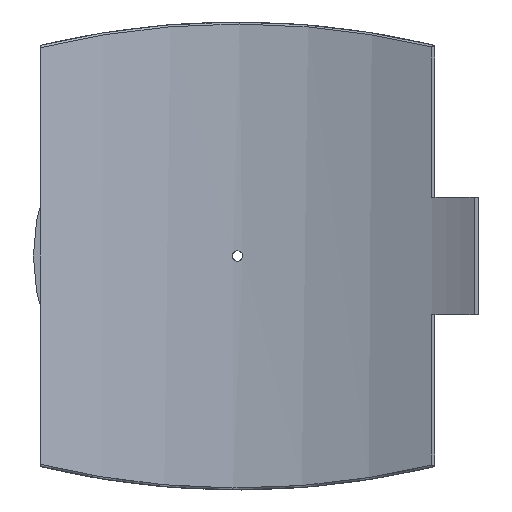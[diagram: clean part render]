
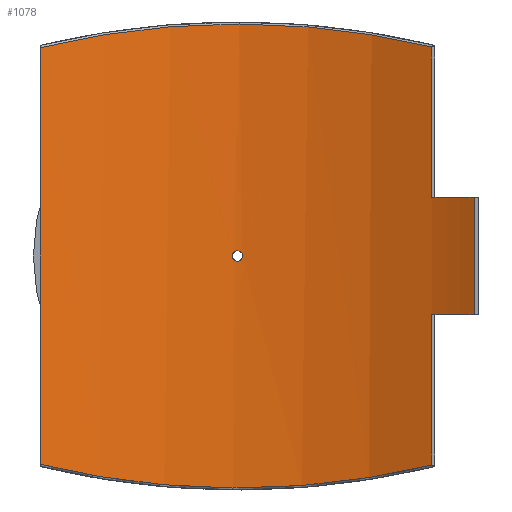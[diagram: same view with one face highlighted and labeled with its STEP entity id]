
A CAD part, front view. The second image highlights one B-rep face of the part: STEP entity #1078.
In plain terms, the highlighted cylindrical face has radius 450 mm (diameter 900 mm), a partial arc.
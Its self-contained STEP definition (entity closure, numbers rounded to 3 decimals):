
#55=FACE_BOUND('',#355,.T.);
#109=B_SPLINE_CURVE_WITH_KNOTS('',3,(#2213,#2214,#2215,#2216,#2217,#2218,
#2219,#2220,#2221,#2222),.UNSPECIFIED.,.F.,.F.,(4,1,1,1,1,1,1,4),(-46.516,
-40.629,-34.742,-28.854,-22.967,
-17.08,-11.192,-5.305),.UNSPECIFIED.);
#110=B_SPLINE_CURVE_WITH_KNOTS('',3,(#2231,#2232,#2233,#2234,#2235,#2236,
#2237,#2238,#2239,#2240),.UNSPECIFIED.,.F.,.F.,(4,1,1,1,1,1,1,4),(-42.546,
-36.659,-30.771,-24.884,-18.997,-13.109,
-7.222,-1.335),.UNSPECIFIED.);
#111=B_SPLINE_CURVE_WITH_KNOTS('',3,(#2243,#2244,#2245,#2246,#2247,#2248,
#2249,#2250,#2251,#2252),.UNSPECIFIED.,.F.,.F.,(4,2,2,2,4),(0.,0.196,
0.392,0.588,0.784),.UNSPECIFIED.);
#112=B_SPLINE_CURVE_WITH_KNOTS('',3,(#2253,#2254,#2255,#2256,#2257,#2258,
#2259,#2260,#2261,#2262,#2263,#2264,#2265,#2266,#2267,#2268,#2269,#2270,
#2271,#2272,#2273,#2274,#2275,#2276,#2277,#2278),.UNSPECIFIED.,.F.,.F.,
(4,2,2,2,2,2,2,2,2,2,2,2,4),(0.784,0.979,1.175,
1.371,1.567,1.763,1.959,2.155,
2.351,2.546,2.742,2.938,3.134),
 .UNSPECIFIED.);
#133=LINE('',#1615,#184);
#144=LINE('',#1902,#195);
#151=LINE('',#2227,#202);
#152=LINE('',#2230,#203);
#184=VECTOR('',#1292,10.);
#195=VECTOR('',#1331,10.);
#202=VECTOR('',#1368,10.);
#203=VECTOR('',#1371,10.);
#244=CYLINDRICAL_SURFACE('',#1175,450.);
#288=FACE_OUTER_BOUND('',#354,.T.);
#354=EDGE_LOOP('',(#839,#840,#841,#842,#843,#844,#845,#846));
#355=EDGE_LOOP('',(#847,#848));
#449=CIRCLE('',#1176,450.);
#450=CIRCLE('',#1177,450.);
#510=VERTEX_POINT('',#1606);
#513=VERTEX_POINT('',#1613);
#533=VERTEX_POINT('',#1895);
#536=VERTEX_POINT('',#1900);
#549=VERTEX_POINT('',#2199);
#550=VERTEX_POINT('',#2224);
#551=VERTEX_POINT('',#2226);
#552=VERTEX_POINT('',#2229);
#553=VERTEX_POINT('',#2241);
#554=VERTEX_POINT('',#2242);
#613=EDGE_CURVE('',#513,#510,#133,.T.);
#643=EDGE_CURVE('',#536,#533,#144,.T.);
#666=EDGE_CURVE('',#549,#536,#109,.T.);
#667=EDGE_CURVE('',#550,#513,#449,.T.);
#668=EDGE_CURVE('',#550,#551,#151,.T.);
#669=EDGE_CURVE('',#533,#551,#450,.T.);
#670=EDGE_CURVE('',#552,#549,#152,.T.);
#671=EDGE_CURVE('',#510,#552,#110,.T.);
#672=EDGE_CURVE('',#553,#554,#111,.T.);
#673=EDGE_CURVE('',#554,#553,#112,.T.);
#839=ORIENTED_EDGE('',*,*,#667,.F.);
#840=ORIENTED_EDGE('',*,*,#668,.T.);
#841=ORIENTED_EDGE('',*,*,#669,.F.);
#842=ORIENTED_EDGE('',*,*,#643,.F.);
#843=ORIENTED_EDGE('',*,*,#666,.F.);
#844=ORIENTED_EDGE('',*,*,#670,.F.);
#845=ORIENTED_EDGE('',*,*,#671,.F.);
#846=ORIENTED_EDGE('',*,*,#613,.F.);
#847=ORIENTED_EDGE('',*,*,#672,.T.);
#848=ORIENTED_EDGE('',*,*,#673,.T.);
#1078=ADVANCED_FACE('',(#288,#55),#244,.F.);
#1175=AXIS2_PLACEMENT_3D('',#2223,#1364,#1365);
#1176=AXIS2_PLACEMENT_3D('',#2225,#1366,#1367);
#1177=AXIS2_PLACEMENT_3D('',#2228,#1369,#1370);
#1292=DIRECTION('',(0.,0.,-1.));
#1331=DIRECTION('',(0.,0.,-1.));
#1364=DIRECTION('center_axis',(0.,0.,1.));
#1365=DIRECTION('ref_axis',(-1.,0.,0.));
#1366=DIRECTION('center_axis',(0.,0.,1.));
#1367=DIRECTION('ref_axis',(-0.528,-0.849,0.));
#1368=DIRECTION('',(0.,0.,1.));
#1369=DIRECTION('center_axis',(0.,0.,-1.));
#1370=DIRECTION('ref_axis',(-0.528,-0.849,0.));
#1371=DIRECTION('',(0.,0.,1.));
#1606=CARTESIAN_POINT('',(195.133,405.491,-209.923));
#1613=CARTESIAN_POINT('',(195.133,405.491,-58.75));
#1615=CARTESIAN_POINT('',(195.133,405.491,0.));
#1895=CARTESIAN_POINT('',(195.133,405.491,58.75));
#1900=CARTESIAN_POINT('',(195.133,405.491,209.923));
#1902=CARTESIAN_POINT('',(195.133,405.491,0.));
#2199=CARTESIAN_POINT('',(-198.,404.099,209.23));
#2213=CARTESIAN_POINT('Ctrl Pts',(-198.,404.099,209.23));
#2214=CARTESIAN_POINT('Ctrl Pts',(-180.859,412.498,213.405));
#2215=CARTESIAN_POINT('Ctrl Pts',(-145.329,427.197,220.906));
#2216=CARTESIAN_POINT('Ctrl Pts',(-89.127,442.374,228.904));
#2217=CARTESIAN_POINT('Ctrl Pts',(-31.017,450.208,233.111));
#2218=CARTESIAN_POINT('Ctrl Pts',(27.751,450.421,233.227));
#2219=CARTESIAN_POINT('Ctrl Pts',(85.928,443.007,229.242));
#2220=CARTESIAN_POINT('Ctrl Pts',(142.27,428.227,221.443));
#2221=CARTESIAN_POINT('Ctrl Pts',(177.921,413.774,214.051));
#2222=CARTESIAN_POINT('Ctrl Pts',(195.133,405.491,209.923));
#2223=CARTESIAN_POINT('Origin',(0.,0.,0.));
#2224=CARTESIAN_POINT('',(237.752,382.065,-58.75));
#2225=CARTESIAN_POINT('Origin',(0.,0.,
-58.75));
#2226=CARTESIAN_POINT('',(237.752,382.065,58.75));
#2227=CARTESIAN_POINT('',(237.752,382.065,0.));
#2228=CARTESIAN_POINT('Origin',(0.,0.,
58.75));
#2229=CARTESIAN_POINT('',(-198.,404.099,-209.23));
#2230=CARTESIAN_POINT('',(-198.,404.099,0.));
#2231=CARTESIAN_POINT('Ctrl Pts',(195.133,405.491,-209.923));
#2232=CARTESIAN_POINT('Ctrl Pts',(177.921,413.774,-214.051));
#2233=CARTESIAN_POINT('Ctrl Pts',(142.27,428.227,-221.443));
#2234=CARTESIAN_POINT('Ctrl Pts',(85.928,443.007,-229.243));
#2235=CARTESIAN_POINT('Ctrl Pts',(27.751,450.421,-233.226));
#2236=CARTESIAN_POINT('Ctrl Pts',(-31.017,450.208,-233.112));
#2237=CARTESIAN_POINT('Ctrl Pts',(-89.127,442.374,-228.904));
#2238=CARTESIAN_POINT('Ctrl Pts',(-145.329,427.197,-220.907));
#2239=CARTESIAN_POINT('Ctrl Pts',(-180.859,412.498,-213.405));
#2240=CARTESIAN_POINT('Ctrl Pts',(-198.,404.099,-209.23));
#2241=CARTESIAN_POINT('',(5.2,449.97,0.));
#2242=CARTESIAN_POINT('',(0.,450.,-5.2));
#2243=CARTESIAN_POINT('Ctrl Pts',(5.2,449.97,0.));
#2244=CARTESIAN_POINT('Ctrl Pts',(5.2,449.97,-0.653));
#2245=CARTESIAN_POINT('Ctrl Pts',(5.07,449.972,-1.349));
#2246=CARTESIAN_POINT('Ctrl Pts',(4.539,449.977,-2.631));
#2247=CARTESIAN_POINT('Ctrl Pts',(4.139,449.981,-3.215));
#2248=CARTESIAN_POINT('Ctrl Pts',(3.215,449.989,-4.139));
#2249=CARTESIAN_POINT('Ctrl Pts',(2.631,449.993,-4.539));
#2250=CARTESIAN_POINT('Ctrl Pts',(1.349,449.998,-5.07));
#2251=CARTESIAN_POINT('Ctrl Pts',(0.653,450.,-5.2));
#2252=CARTESIAN_POINT('Ctrl Pts',(0.,450.,-5.2));
#2253=CARTESIAN_POINT('Ctrl Pts',(0.,450.,-5.2));
#2254=CARTESIAN_POINT('Ctrl Pts',(-0.653,450.,-5.2));
#2255=CARTESIAN_POINT('Ctrl Pts',(-1.349,449.998,-5.07));
#2256=CARTESIAN_POINT('Ctrl Pts',(-2.631,449.993,-4.539));
#2257=CARTESIAN_POINT('Ctrl Pts',(-3.215,449.989,-4.139));
#2258=CARTESIAN_POINT('Ctrl Pts',(-4.139,449.981,-3.215));
#2259=CARTESIAN_POINT('Ctrl Pts',(-4.539,449.977,-2.631));
#2260=CARTESIAN_POINT('Ctrl Pts',(-5.07,449.972,-1.349));
#2261=CARTESIAN_POINT('Ctrl Pts',(-5.2,449.97,-0.653));
#2262=CARTESIAN_POINT('Ctrl Pts',(-5.2,449.97,0.653));
#2263=CARTESIAN_POINT('Ctrl Pts',(-5.07,449.972,1.349));
#2264=CARTESIAN_POINT('Ctrl Pts',(-4.539,449.977,2.631));
#2265=CARTESIAN_POINT('Ctrl Pts',(-4.139,449.981,3.215));
#2266=CARTESIAN_POINT('Ctrl Pts',(-3.215,449.989,4.139));
#2267=CARTESIAN_POINT('Ctrl Pts',(-2.631,449.993,4.539));
#2268=CARTESIAN_POINT('Ctrl Pts',(-1.349,449.998,5.07));
#2269=CARTESIAN_POINT('Ctrl Pts',(-0.653,450.,5.2));
#2270=CARTESIAN_POINT('Ctrl Pts',(0.653,450.,5.2));
#2271=CARTESIAN_POINT('Ctrl Pts',(1.349,449.998,5.07));
#2272=CARTESIAN_POINT('Ctrl Pts',(2.631,449.993,4.539));
#2273=CARTESIAN_POINT('Ctrl Pts',(3.215,449.989,4.139));
#2274=CARTESIAN_POINT('Ctrl Pts',(4.139,449.981,3.215));
#2275=CARTESIAN_POINT('Ctrl Pts',(4.539,449.977,2.631));
#2276=CARTESIAN_POINT('Ctrl Pts',(5.07,449.972,1.349));
#2277=CARTESIAN_POINT('Ctrl Pts',(5.2,449.97,0.653));
#2278=CARTESIAN_POINT('Ctrl Pts',(5.2,449.97,0.));
